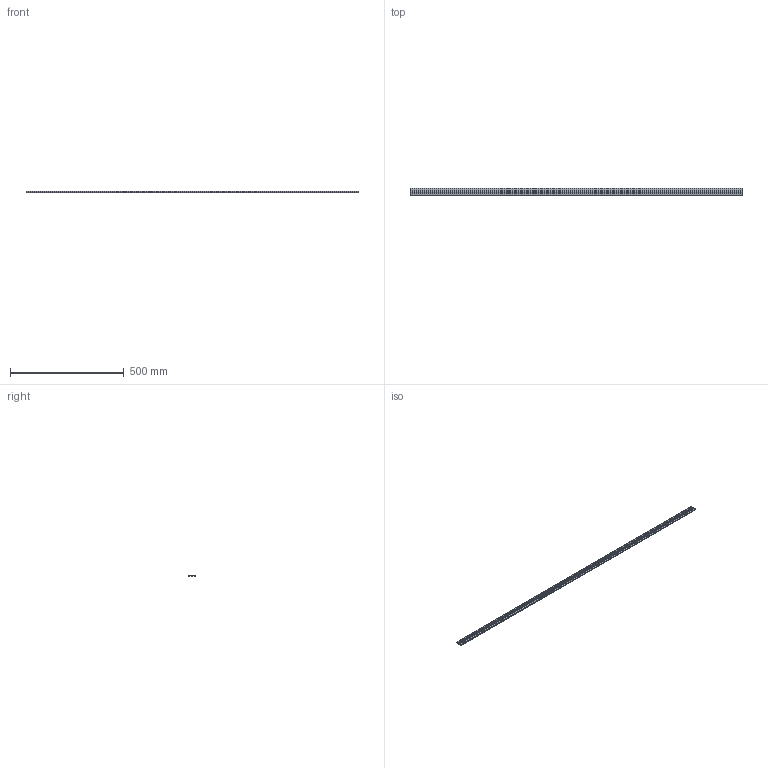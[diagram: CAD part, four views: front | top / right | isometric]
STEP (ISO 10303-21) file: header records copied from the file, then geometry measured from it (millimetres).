
FILE_DESCRIPTION( ( 'Unknown' ), '1' );
FILE_NAME( 'Z:/Datenaustausch/a/01VYQ3KY02.stp', 'Unknown', ( 'Unknown' ), ( 'BJB GmbH & Co. KG' ), 'PSStep 14.0', 'Unknown', ' ' );
FILE_SCHEMA( ( 'AUTOMOTIVE_DESIGN { 1 0 10303 214 1 1 1 1 }' ) );
Length unit declared in the file: millimetre
Products named in the file (1): 1
Bounding box: 1457.6 x 30.9 x 5.67 mm (x, y, z)
Volume: 106268.9 mm3; surface area: 113051.1 mm2
Topology: 1 solids, 1 shells, 54 faces, 156 edges, 104 vertices
Faces by surface type: cylinder 35, plane 19
Entity records: 1825 total; most frequent: DIRECTION 336, CARTESIAN_POINT 315, ORIENTED_EDGE 312, EDGE_CURVE 156, AXIS2_PLACEMENT_3D 125, VERTEX_POINT 104, LINE 86, VECTOR 86
